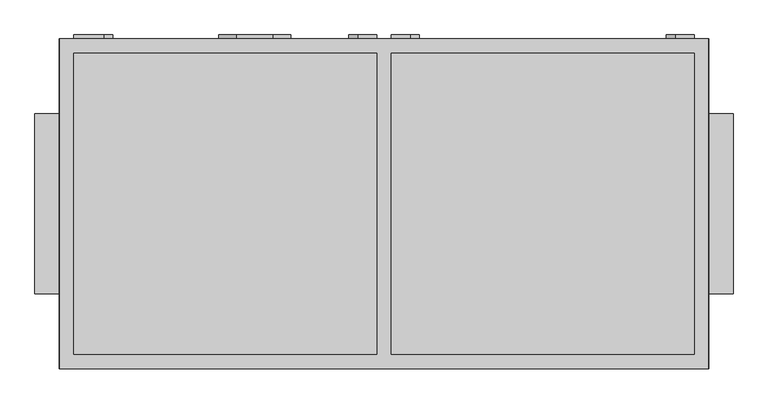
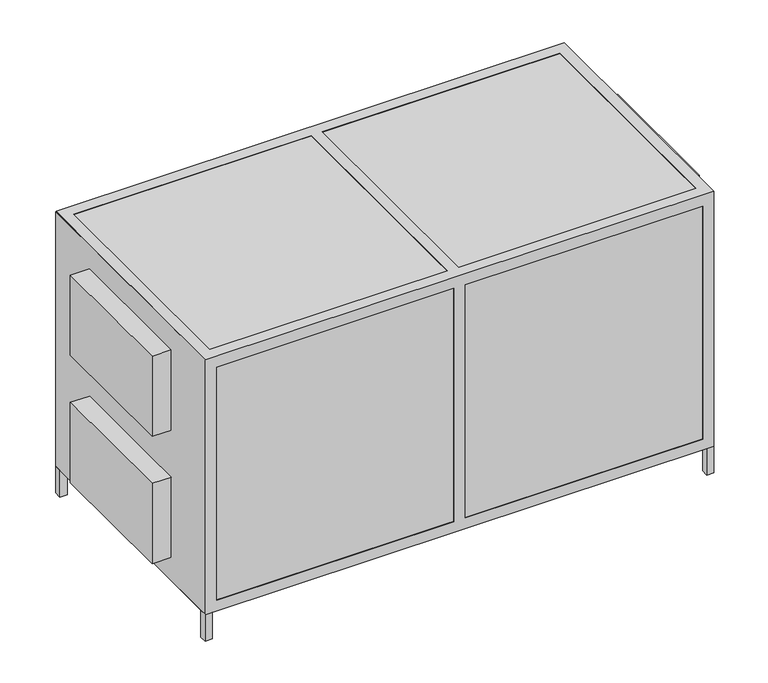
"""IFC4 building model written with IfcOpenShell, lengths in millimetres: proxy geometry, AVS 2200...3800-S-RC(RG)-L : AVS 2900-S-RG-L."""

from ifc_helpers import new_model, si_unit, point, frame, frame_2d, origin, origin_with_axes, place, context, project, spatial, polyline, circle_curve, trimmed, segment, composite_curve, outline, extrude, faceted_brep, source, transform, mapped, element, save


def mechanical_equipment_98732234(model_context):
    return source(origin(), model_context, "Body", "SolidModel", [
        extrude(outline(polyline([(875.0, 457.0), (900.0, 457.0), (900.0, 432.0), (875.0, 432.0), (875.0, 457.0)])), origin_with_axes(), (0.0, 0.0, 1.0), 100.0),
        extrude(outline(polyline([(875.0, -457.0), (875.0, -432.0), (900.0, -432.0), (900.0, -457.0), (875.0, -457.0)])), origin_with_axes(), (0.0, 0.0, 1.0), 100.0),
        extrude(outline(polyline([(-900.0, 432.0), (-900.0, 457.0), (-875.0, 457.0), (-875.0, 432.0), (-900.0, 432.0)])), origin_with_axes(), (0.0, 0.0, 1.0), 100.0),
        extrude(outline(polyline([(-900.0, -432.0), (-875.0, -432.0), (-875.0, -457.0), (-900.0, -457.0), (-900.0, -432.0)])), origin_with_axes(), (0.0, 0.0, 1.0), 100.0),
        faceted_brep([(899.0, 458.0, 1053.0), (-899.0, 458.0, 1053.0), (-899.0, -458.0, 1053.0), (899.0, -458.0, 1053.0), (-860.0, 417.0, 1053.0), (-20.0, 417.0, 1053.0), (-20.0, -417.0, 1053.0), (-860.0, -417.0, 1053.0), (860.0, 417.0, 1053.0), (860.0, -417.0, 1053.0), (20.0, -417.0, 1053.0), (20.0, 417.0, 1053.0), (899.0, 458.0, 99.0), (899.0, -458.0, 99.0), (-899.0, -458.0, 99.0), (-899.0, 458.0, 99.0), (-20.0, 417.0, 99.0), (-860.0, 417.0, 99.0), (-860.0, -417.0, 99.0), (-20.0, -417.0, 99.0), (860.0, -417.0, 99.0), (860.0, 417.0, 99.0), (20.0, 417.0, 99.0), (20.0, -417.0, 99.0), (-20.0, 458.0, 1012.0), (-860.0, 458.0, 1012.0), (-860.0, 458.0, 140.0), (-20.0, 458.0, 140.0), (860.0, 458.0, 140.0), (860.0, 458.0, 1012.0), (20.0, 458.0, 1012.0), (20.0, 458.0, 140.0), (-899.0, -417.0, 1012.0), (-899.0, -417.0, 140.0), (-899.0, 417.0, 140.0), (-899.0, 417.0, 1012.0), (-860.0, -458.0, 1012.0), (-20.0, -458.0, 1012.0), (-20.0, -458.0, 140.0), (-860.0, -458.0, 140.0), (860.0, -458.0, 1012.0), (860.0, -458.0, 140.0), (20.0, -458.0, 140.0), (20.0, -458.0, 1012.0), (899.0, -417.0, 140.0), (899.0, -417.0, 1012.0), (899.0, 417.0, 1012.0), (899.0, 417.0, 140.0), (-860.0, 417.0, 1012.0), (-20.0, 417.0, 1012.0), (-20.0, 417.0, 140.0), (-860.0, 417.0, 140.0), (-20.0, -417.0, 1012.0), (-860.0, -417.0, 1012.0), (-860.0, -417.0, 140.0), (-20.0, -417.0, 140.0), (860.0, 417.0, 1012.0), (860.0, -417.0, 1012.0), (860.0, -417.0, 140.0), (860.0, 417.0, 140.0), (20.0, 417.0, 1012.0), (20.0, -417.0, 1012.0), (20.0, -417.0, 140.0), (20.0, 417.0, 140.0)], [[[0, 1, 2, 3], [4, 5, 6, 7], [8, 9, 10, 11]], [[12, 13, 14, 15], [16, 17, 18, 19], [20, 21, 22, 23]], [[1, 0, 12, 15], [24, 25, 26, 27], [28, 29, 30, 31]], [[2, 1, 15, 14], [32, 33, 34, 35]], [[3, 2, 14, 13], [36, 37, 38, 39], [40, 41, 42, 43]], [[0, 3, 13, 12], [44, 45, 46, 47]], [[5, 4, 48, 49]], [[17, 16, 50, 51]], [[7, 6, 52, 53]], [[19, 18, 54, 55]], [[9, 8, 56, 57]], [[21, 20, 58, 59]], [[40, 57, 58, 41]], [[56, 29, 28, 59]], [[35, 48, 53, 32]], [[45, 57, 56, 46]], [[49, 60, 61, 52]], [[51, 34, 33, 54]], [[47, 59, 58, 44]], [[55, 62, 63, 50]], [[36, 53, 52, 37]], [[24, 49, 48, 25]], [[54, 39, 38, 55]], [[50, 27, 26, 51]], [[32, 53, 54, 33]], [[52, 61, 62, 55]], [[44, 58, 57, 45]], [[48, 35, 34, 51]], [[60, 49, 50, 63]], [[59, 47, 46, 56]], [[4, 7, 53, 48]], [[18, 17, 51, 54]], [[53, 36, 39, 54]], [[25, 48, 51, 26]], [[6, 5, 49, 52]], [[16, 19, 55, 50]], [[37, 52, 55, 38]], [[49, 24, 27, 50]], [[8, 11, 60, 56]], [[22, 21, 59, 63]], [[11, 10, 61, 60]], [[23, 22, 63, 62]], [[30, 60, 63, 31]], [[61, 43, 42, 62]], [[10, 9, 57, 61]], [[20, 23, 62, 58]], [[57, 40, 43, 61]], [[29, 56, 60, 30]], [[41, 58, 62, 42]], [[59, 28, 31, 63]]]),
        extrude(outline(polyline([(-900.0, 457.0), (900.0, 457.0), (900.0, -457.0), (-900.0, -457.0), (-900.0, 457.0)])), frame((0.0, 0.0, 100.0), z_axis=(0.0, 0.0, 1.0), x_axis=(1.0, 0.0, 0.0)), (0.0, 0.0, 1.0), 952.0),
        extrude(outline(composite_curve([segment(polyline([(839.0, -777.2895396), (839.0, -860.0), (789.0, -860.0), (789.0, -777.2895396)]), True, "CONTINUOUS"), segment(trimmed(circle_curve(frame_2d((814.0, -777.2895396)), 25.0), [point((789.0, -777.2895396))], [point((839.0, -777.2895396))], False, "CARTESIAN"), True, "CONTINUOUS")], self_intersect=False)), frame((0.0, 457.0, 0.0), z_axis=(0.0, 1.0, 0.0), x_axis=(0.0, 0.0, 1.0)), (0.0, 0.0, 1.0), 11.0),
        extrude(outline(composite_curve([segment(polyline([(363.0, -777.2895396), (363.0, -860.0), (313.0, -860.0), (313.0, -777.2895396)]), True, "CONTINUOUS"), segment(trimmed(circle_curve(frame_2d((338.0, -777.2895396)), 25.0), [point((313.0, -777.2895396))], [point((363.0, -777.2895396))], False, "CARTESIAN"), True, "CONTINUOUS")], self_intersect=False)), frame((0.0, 457.0, 0.0), z_axis=(0.0, 1.0, 0.0), x_axis=(0.0, 0.0, 1.0)), (0.0, 0.0, 1.0), 11.0),
        extrude(outline(composite_curve([segment(trimmed(circle_curve(frame_2d((744.0, -72.7104604)), 25.0), [point((769.0, -72.7104604))], [point((719.0, -72.7104604))], False, "CARTESIAN"), True, "CONTINUOUS"), segment(polyline([(719.0, -72.7104604), (719.0, -20.0), (769.0, -20.0), (769.0, -72.7104604)]), True, "CONTINUOUS")], self_intersect=False)), frame((0.0, 457.0, 0.0), z_axis=(0.0, 1.0, 0.0), x_axis=(0.0, 0.0, 1.0)), (0.0, 0.0, 1.0), 11.0),
        extrude(outline(composite_curve([segment(polyline([(383.0, -72.7104604), (383.0, -20.0), (433.0, -20.0), (433.0, -72.7104604)]), True, "CONTINUOUS"), segment(trimmed(circle_curve(frame_2d((408.0, -72.7104604)), 25.0), [point((433.0, -72.7104604))], [point((383.0, -72.7104604))], False, "CARTESIAN"), True, "CONTINUOUS")], self_intersect=False)), frame((0.0, 457.0, 0.0), z_axis=(0.0, 1.0, 0.0), x_axis=(0.0, 0.0, 1.0)), (0.0, 0.0, 1.0), 11.0),
        extrude(outline(composite_curve([segment(trimmed(circle_curve(frame_2d((964.0, 807.2895396)), 25.0), [point((989.0, 807.2895396))], [point((939.0, 807.2895396))], False, "CARTESIAN"), True, "CONTINUOUS"), segment(polyline([(939.0, 807.2895396), (939.0, 860.0), (989.0, 860.0), (989.0, 807.2895396)]), True, "CONTINUOUS")], self_intersect=False)), frame((0.0, 457.0, 0.0), z_axis=(0.0, 1.0, 0.0), x_axis=(0.0, 0.0, 1.0)), (0.0, 0.0, 1.0), 11.0),
        extrude(outline(composite_curve([segment(polyline([(163.0, 807.2895396), (163.0, 860.0), (213.0, 860.0), (213.0, 807.2895396)]), True, "CONTINUOUS"), segment(trimmed(circle_curve(frame_2d((188.0, 807.2895396)), 25.0), [point((213.0, 807.2895396))], [point((163.0, 807.2895396))], False, "CARTESIAN"), True, "CONTINUOUS")], self_intersect=False)), frame((0.0, 457.0, 0.0), z_axis=(0.0, 1.0, 0.0), x_axis=(0.0, 0.0, 1.0)), (0.0, 0.0, 1.0), 11.0),
        extrude(outline(composite_curve([segment(polyline([(889.0, 72.7104604), (889.0, 20.0), (839.0, 20.0), (839.0, 72.7104604)]), True, "CONTINUOUS"), segment(trimmed(circle_curve(frame_2d((864.0, 72.7104604)), 25.0), [point((839.0, 72.7104604))], [point((889.0, 72.7104604))], False, "CARTESIAN"), True, "CONTINUOUS")], self_intersect=False)), frame((0.0, 457.0, 0.0), z_axis=(0.0, 1.0, 0.0), x_axis=(0.0, 0.0, 1.0)), (0.0, 0.0, 1.0), 11.0),
        extrude(outline(composite_curve([segment(trimmed(circle_curve(frame_2d((288.0, 72.7104604)), 25.0), [point((263.0, 72.7104604))], [point((313.0, 72.7104604))], False, "CARTESIAN"), True, "CONTINUOUS"), segment(polyline([(313.0, 72.7104604), (313.0, 20.0), (263.0, 20.0), (263.0, 72.7104604)]), True, "CONTINUOUS")], self_intersect=False)), frame((0.0, 457.0, 0.0), z_axis=(0.0, 1.0, 0.0), x_axis=(0.0, 0.0, 1.0)), (0.0, 0.0, 1.0), 11.0),
        extrude(outline(composite_curve([segment(polyline([(937.9531077, -308.4249776), (937.9531077, -408.4249776)]), True, "CONTINUOUS"), segment(trimmed(circle_curve(frame_2d((887.9531077, -408.4249776)), 50.0), [point((937.9531077, -408.4249776))], [point((837.9531077, -408.4249776))], False, "CARTESIAN"), True, "CONTINUOUS"), segment(polyline([(837.9531077, -408.4249776), (837.9531077, -308.4249776)]), True, "CONTINUOUS"), segment(trimmed(circle_curve(frame_2d((887.9531077, -308.4249776)), 50.0), [point((837.9531077, -308.4249776))], [point((937.9531077, -308.4249776))], False, "CARTESIAN"), True, "CONTINUOUS")], self_intersect=False)), frame((0.0, 457.0, 0.0), z_axis=(0.0, 1.0, 0.0), x_axis=(0.0, 0.0, 1.0)), (0.0, 0.0, 1.0), 11.0),
        extrude(outline(polyline([(-968.0, -250.0), (-968.0, 250.0), (-900.0, 250.0), (-900.0, -250.0), (-968.0, -250.0)])), frame((0.0, 0.0, 664.0), z_axis=(0.0, 0.0, 1.0), x_axis=(1.0, 0.0, 0.0)), (0.0, 0.0, 1.0), 300.0),
        extrude(outline(polyline([(-968.0, -250.0), (-968.0, 250.0), (-900.0, 250.0), (-900.0, -250.0), (-968.0, -250.0)])), frame((0.0, 0.0, 188.0), z_axis=(0.0, 0.0, 1.0), x_axis=(1.0, 0.0, 0.0)), (0.0, 0.0, 1.0), 300.0),
        extrude(outline(polyline([(968.0, 250.0), (968.0, -250.0), (900.0, -250.0), (900.0, 250.0), (968.0, 250.0)])), frame((0.0, 0.0, 664.0), z_axis=(0.0, 0.0, 1.0), x_axis=(1.0, 0.0, 0.0)), (0.0, 0.0, 1.0), 300.0),
        extrude(outline(polyline([(968.0, 250.0), (968.0, -250.0), (900.0, -250.0), (900.0, 250.0), (968.0, 250.0)])), frame((0.0, 0.0, 188.0), z_axis=(0.0, 0.0, 1.0), x_axis=(1.0, 0.0, 0.0)), (0.0, 0.0, 1.0), 300.0),
    ])


if __name__ == "__main__":
    model = new_model("IFC4")
    model_context = context("Model", 3, world=origin())
    ifc_project = project(units=[si_unit("LENGTHUNIT", "METRE", prefix="MILLI")], contexts=[model_context])
    site = spatial("IfcSite", under=ifc_project)
    building = spatial("IfcBuilding", under=site)
    placement = place(None, origin())
    mechanical_equipment_shape = mechanical_equipment_98732234(model_context)
    element("IfcBuildingElementProxy", 1, Name="AVS 2200...3800-S-RC(RG)-L : AVS 2900-S-RG-L", ObjectType="AVS 2200...3800-S-RC(RG)-L : AVS 2900-S-RG-L", at=placement, inside=building, context=model_context, shape_type="MappedRepresentation", body=[
        mapped(mechanical_equipment_shape, transform((0.0, 0.0, 0.0), x_axis=(1.0, 0.0, 0.0), y_axis=(0.0, 1.0, 0.0), z_axis=(0.0, 0.0, 1.0))),
    ])
    save(model, "model.ifc")
